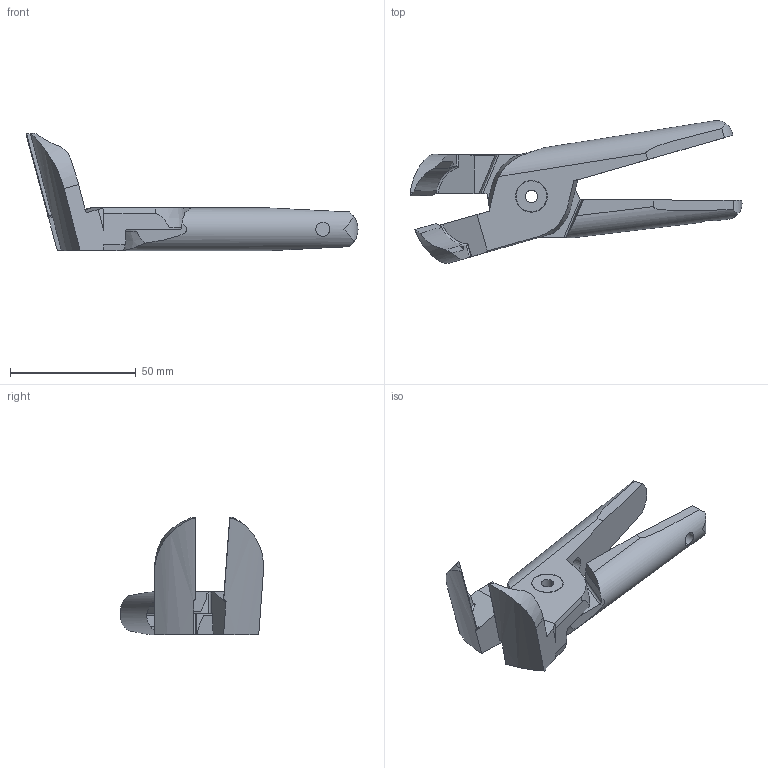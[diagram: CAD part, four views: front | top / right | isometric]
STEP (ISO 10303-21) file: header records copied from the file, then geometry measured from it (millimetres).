
FILE_DESCRIPTION (( 'STEP AP214' ), '1' );
FILE_NAME ('GPT-30-DA75.STEP', '2013-10-23T13:36:55', ( 'user' ), ( '' ), 'SwSTEP 2.0', 'SolidWorks 2009', '' );
FILE_SCHEMA (( 'AUTOMOTIVE_DESIGN' ));
Length unit declared in the file: millimetre
Products named in the file (4): 30PRIVIT3; 30DA75S; 30DA75O; GPT-30-DA75
Assembly tree (3 placements, depth 2):
  GPT-30-DA75
    30DA75O
    30PRIVIT3
    30DA75S
Bounding box: 132.14 x 56.86 x 46.7 mm (x, y, z)
Volume: 48341.6 mm3; surface area: 19112.5 mm2
Topology: 3 solids, 3 shells, 138 faces, 381 edges, 248 vertices
Faces by surface type: plane 71, cylinder 47, cone 16, bspline 2, torus 2
Entity records: 5102 total; most frequent: CARTESIAN_POINT 1621, ORIENTED_EDGE 754, DIRECTION 648, EDGE_CURVE 377, VERTEX_POINT 248, VECTOR 216, LINE 216, AXIS2_PLACEMENT_3D 216
